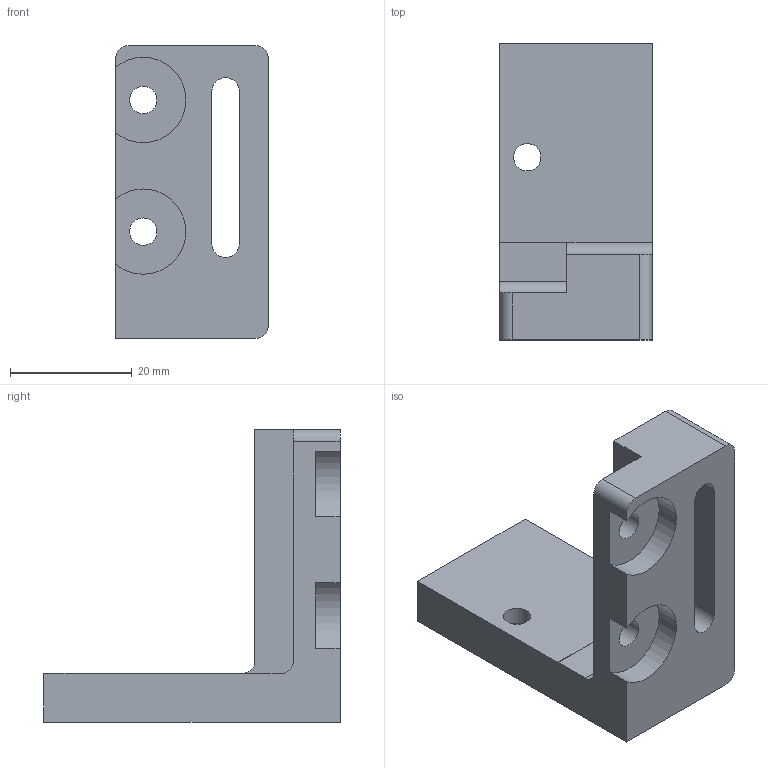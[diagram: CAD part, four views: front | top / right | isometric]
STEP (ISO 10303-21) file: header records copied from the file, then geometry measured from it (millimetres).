
FILE_DESCRIPTION(/* description */ (''),/* implementation_level */ '2;1');
FILE_NAME(/* name */ 'SM1ZA_mount.stp',/* time_stamp */ '2026-04-13T14:59:40+08:00',/* author */ ('lbx20'),/* organization */ (''),/* preprocessor_version */ 'ST-DEVELOPER v20.1',/* originating_system */ 'Autodesk Inventor 2026',/* authorisation */ '');
FILE_SCHEMA (('AUTOMOTIVE_DESIGN { 1 0 10303 214 3 1 1 }'));
Length unit declared in the file: millimetre
Products named in the file (1): SM1ZA 自制转接件（光纤耦合用）
Bounding box: 25 x 48.6 x 48 mm (x, y, z)
Volume: 16903.2 mm3; surface area: 7686.6 mm2
Topology: 1 solids, 1 shells, 34 faces, 90 edges, 60 vertices
Faces by surface type: plane 19, cylinder 15
Full cylindrical faces by diameter (mm): 4.5 x3, 7.5 x1
Entity records: 1124 total; most frequent: DIRECTION 191, CARTESIAN_POINT 185, ORIENTED_EDGE 180, EDGE_CURVE 90, AXIS2_PLACEMENT_3D 66, VERTEX_POINT 60, LINE 59, VECTOR 59
